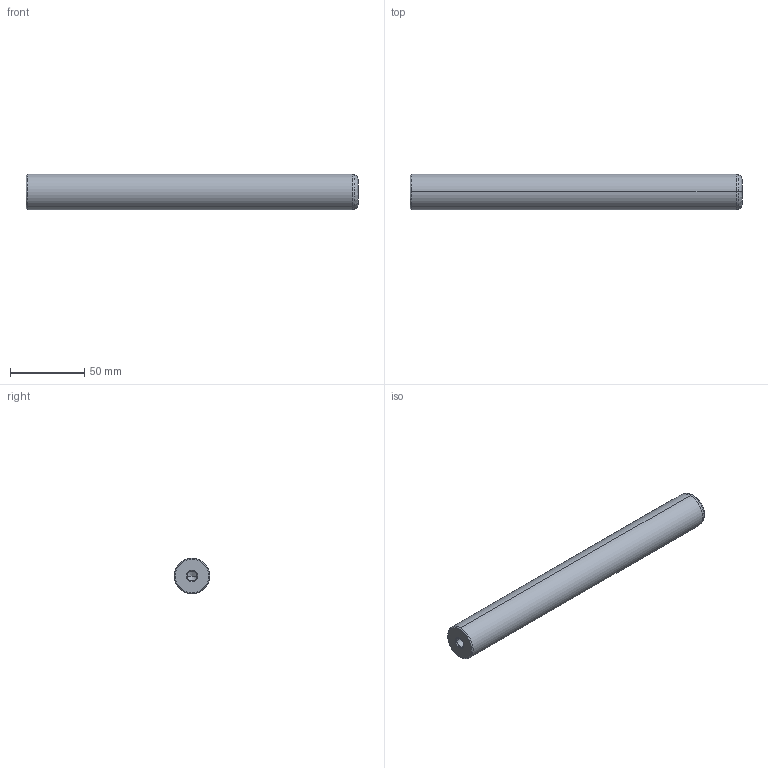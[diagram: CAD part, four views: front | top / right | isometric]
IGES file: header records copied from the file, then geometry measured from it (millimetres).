
Start section: START RECORD GO HERE.
Global section: file name: 720-24x224.igs; native system: DASSAULT SYSTEMES CATIA V5 R20 - www.3ds.com; preprocessor: CATIA Version 5 Release 20 ; author: Utente; organization: NB04-ASUS; date: 20210101.135108; units: millimetre
Bounding box: 224 x 24 x 24 mm (x, y, z)
Surface area: 18629.2 mm2 (no closed solid volume)
Topology: 0 solids, 0 shells, 22 faces, 108 edges, 104 vertices
Faces by surface type: revolution 20, plane 2
